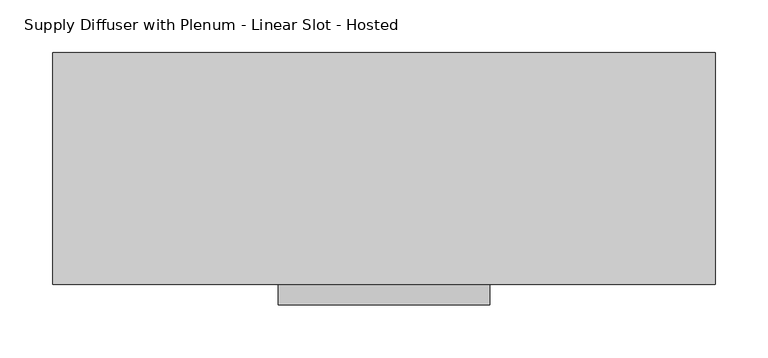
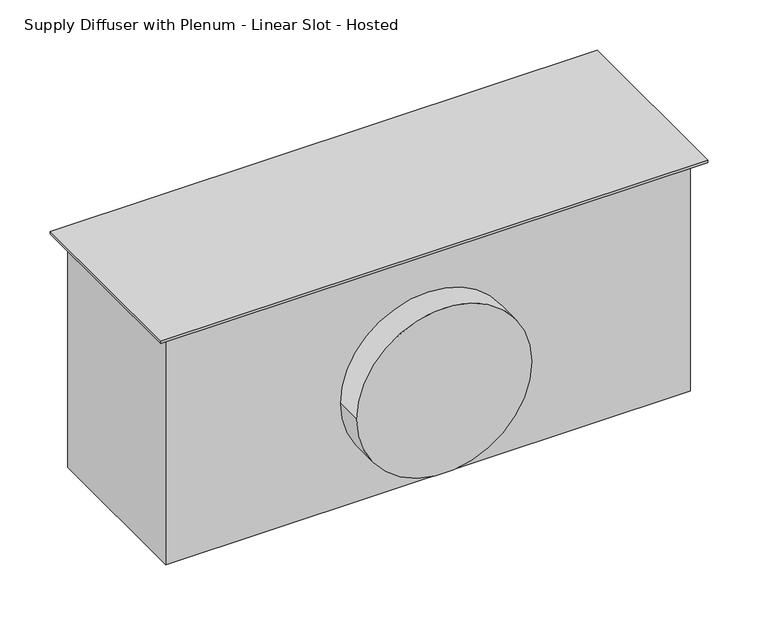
"""IFC4 building model written with IfcOpenShell, lengths in millimetres: air terminal geometry."""

from ifc_helpers import new_model, si_unit, point, frame, frame_2d, origin, origin_with_axes, place, context, project, spatial, polyline, circle_curve, trimmed, segment, composite_curve, outline, extrude, source, transform, mapped, element, save


def supply_diffuser_with_plenum_linear_slot_hosted_8c379eed(model_context):
    return source(origin(), model_context, "Body", "SweptSolid", [
        extrude(outline(composite_curve([segment(trimmed(circle_curve(frame_2d((-154.4, 0.0)), 100.0), [point((-154.4, -100.0))], [point((-154.4, 100.0))], False, "CARTESIAN"), True, "CONTINUOUS"), segment(trimmed(circle_curve(frame_2d((-154.4, 0.0)), 100.0), [point((-154.4, 100.0))], [point((-154.4, -100.0))], False, "CARTESIAN"), True, "CONTINUOUS")], self_intersect=False)), frame((0.0, -128.9, 0.0), z_axis=(0.0, 1.0, 0.0), x_axis=(0.0, 0.0, 1.0)), (0.0, 0.0, 1.0), 32.0),
        extrude(outline(polyline([(312.5, 109.4), (312.5, -109.4), (-312.5, -109.4), (-312.5, 109.4), (312.5, 109.4)])), origin_with_axes(), (0.0, 0.0, 1.0), 3.175),
        extrude(outline(polyline([(300.0, 96.9), (300.0, -96.9), (-300.0, -96.9), (-300.0, 96.9), (300.0, 96.9)])), frame((0.0, 0.0, -279.4), z_axis=(0.0, 0.0, 1.0), x_axis=(1.0, 0.0, 0.0)), (0.0, 0.0, 1.0), 279.4),
    ])


if __name__ == "__main__":
    model = new_model("IFC4")
    model_context = context("Model", 3, world=origin())
    ifc_project = project(units=[si_unit("LENGTHUNIT", "METRE", prefix="MILLI")], contexts=[model_context])
    site = spatial("IfcSite", under=ifc_project)
    building = spatial("IfcBuilding", under=site)
    placement = place(None, origin())
    supply_diffuser_with_plenum_linear_slot_hosted_shape = supply_diffuser_with_plenum_linear_slot_hosted_8c379eed(model_context)
    element("IfcAirTerminal", 1, ObjectType="Supply Diffuser with Plenum - Linear Slot - Hosted : 24\" x 8\"-200 In Inlet  4-Slot", at=placement, inside=building, context=model_context, shape_type="MappedRepresentation", body=[
        mapped(supply_diffuser_with_plenum_linear_slot_hosted_shape, transform((0.0, 0.0, 0.0), x_axis=(1.0, 0.0, 0.0), y_axis=(0.0, 1.0, 0.0), z_axis=(0.0, 0.0, 1.0))),
    ])
    save(model, "model.ifc")
